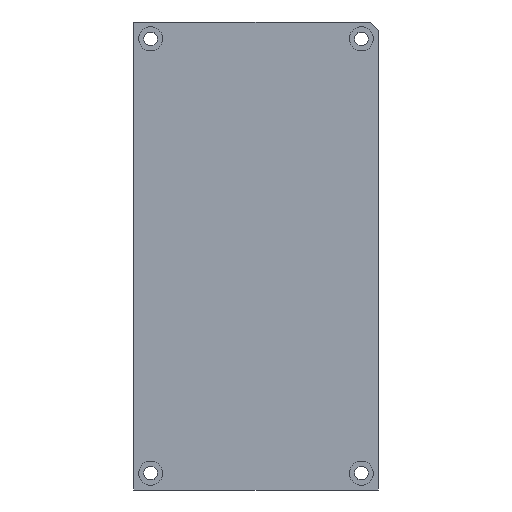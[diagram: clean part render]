
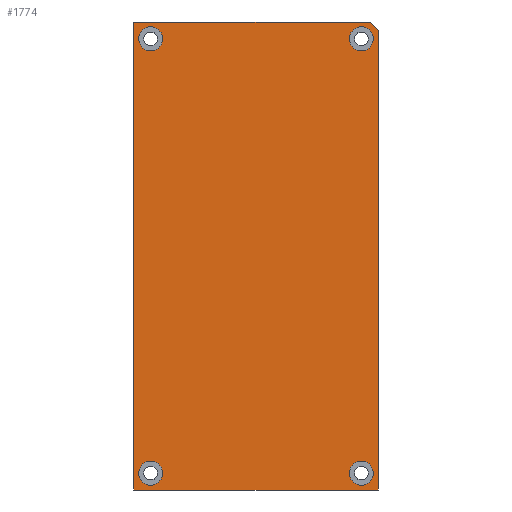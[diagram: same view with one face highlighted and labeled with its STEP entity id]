
A CAD part, front view. The second image highlights one B-rep face of the part: STEP entity #1774.
In plain terms, the highlighted planar face has unit normal (0, -1, 0).
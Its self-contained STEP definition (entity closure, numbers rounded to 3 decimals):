
#32=FACE_BOUND('',#300,.T.);
#33=FACE_BOUND('',#301,.T.);
#34=FACE_BOUND('',#302,.T.);
#35=FACE_BOUND('',#303,.T.);
#93=PLANE('',#1953);
#178=FACE_OUTER_BOUND('',#299,.T.);
#299=EDGE_LOOP('',(#1415,#1416,#1417,#1418,#1419));
#300=EDGE_LOOP('',(#1420));
#301=EDGE_LOOP('',(#1421));
#302=EDGE_LOOP('',(#1422));
#303=EDGE_LOOP('',(#1423));
#471=LINE('',#2898,#624);
#473=LINE('',#2902,#626);
#475=LINE('',#2906,#628);
#476=LINE('',#2908,#629);
#477=LINE('',#2909,#630);
#624=VECTOR('',#2383,10.);
#626=VECTOR('',#2387,10.);
#628=VECTOR('',#2391,10.);
#629=VECTOR('',#2392,10.);
#630=VECTOR('',#2393,10.);
#707=CIRCLE('',#1954,3.);
#708=CIRCLE('',#1955,3.);
#709=CIRCLE('',#1956,3.);
#710=CIRCLE('',#1957,3.);
#852=VERTEX_POINT('',#2895);
#853=VERTEX_POINT('',#2897);
#854=VERTEX_POINT('',#2901);
#855=VERTEX_POINT('',#2905);
#856=VERTEX_POINT('',#2907);
#857=VERTEX_POINT('',#2910);
#858=VERTEX_POINT('',#2912);
#859=VERTEX_POINT('',#2914);
#860=VERTEX_POINT('',#2916);
#1059=EDGE_CURVE('',#852,#853,#471,.T.);
#1061=EDGE_CURVE('',#853,#854,#473,.T.);
#1063=EDGE_CURVE('',#855,#852,#475,.T.);
#1064=EDGE_CURVE('',#856,#855,#476,.T.);
#1065=EDGE_CURVE('',#854,#856,#477,.T.);
#1066=EDGE_CURVE('',#857,#857,#707,.T.);
#1067=EDGE_CURVE('',#858,#858,#708,.T.);
#1068=EDGE_CURVE('',#859,#859,#709,.T.);
#1069=EDGE_CURVE('',#860,#860,#710,.T.);
#1415=ORIENTED_EDGE('',*,*,#1061,.F.);
#1416=ORIENTED_EDGE('',*,*,#1059,.F.);
#1417=ORIENTED_EDGE('',*,*,#1063,.F.);
#1418=ORIENTED_EDGE('',*,*,#1064,.F.);
#1419=ORIENTED_EDGE('',*,*,#1065,.F.);
#1420=ORIENTED_EDGE('',*,*,#1066,.T.);
#1421=ORIENTED_EDGE('',*,*,#1067,.T.);
#1422=ORIENTED_EDGE('',*,*,#1068,.T.);
#1423=ORIENTED_EDGE('',*,*,#1069,.T.);
#1774=ADVANCED_FACE('',(#178,#32,#33,#34,#35),#93,.F.);
#1953=AXIS2_PLACEMENT_3D('',#2904,#2389,#2390);
#1954=AXIS2_PLACEMENT_3D('',#2911,#2394,#2395);
#1955=AXIS2_PLACEMENT_3D('',#2913,#2396,#2397);
#1956=AXIS2_PLACEMENT_3D('',#2915,#2398,#2399);
#1957=AXIS2_PLACEMENT_3D('',#2917,#2400,#2401);
#2383=DIRECTION('',(1.,0.,0.));
#2387=DIRECTION('',(0.707,0.,-0.707));
#2389=DIRECTION('center_axis',(0.,1.,0.));
#2390=DIRECTION('ref_axis',(0.,0.,1.));
#2391=DIRECTION('',(0.,0.,1.));
#2392=DIRECTION('',(-1.,0.,0.));
#2393=DIRECTION('',(0.,0.,-1.));
#2394=DIRECTION('center_axis',(0.,1.,0.));
#2395=DIRECTION('ref_axis',(1.,0.,0.));
#2396=DIRECTION('center_axis',(0.,1.,0.));
#2397=DIRECTION('ref_axis',(-1.,0.,0.));
#2398=DIRECTION('center_axis',(0.,1.,0.));
#2399=DIRECTION('ref_axis',(1.,0.,0.));
#2400=DIRECTION('center_axis',(0.,1.,0.));
#2401=DIRECTION('ref_axis',(-1.,0.,0.));
#2895=CARTESIAN_POINT('',(-30.5,0.,58.4));
#2897=CARTESIAN_POINT('',(28.5,0.,58.4));
#2898=CARTESIAN_POINT('',(-30.5,0.,58.4));
#2901=CARTESIAN_POINT('',(30.5,0.,56.4));
#2902=CARTESIAN_POINT('',(36.475,0.,50.425));
#2904=CARTESIAN_POINT('Origin',(0.,0.,0.));
#2905=CARTESIAN_POINT('',(-30.5,0.,-58.4));
#2906=CARTESIAN_POINT('',(-30.5,0.,-58.4));
#2907=CARTESIAN_POINT('',(30.5,0.,-58.4));
#2908=CARTESIAN_POINT('',(30.5,0.,-58.4));
#2909=CARTESIAN_POINT('',(30.5,0.,58.4));
#2910=CARTESIAN_POINT('',(23.3,0.,54.2));
#2911=CARTESIAN_POINT('Origin',(26.3,0.,54.2));
#2912=CARTESIAN_POINT('',(-23.3,0.,54.2));
#2913=CARTESIAN_POINT('Origin',(-26.3,0.,54.2));
#2914=CARTESIAN_POINT('',(23.3,0.,-54.2));
#2915=CARTESIAN_POINT('Origin',(26.3,0.,-54.2));
#2916=CARTESIAN_POINT('',(-23.3,0.,-54.2));
#2917=CARTESIAN_POINT('Origin',(-26.3,0.,-54.2));
